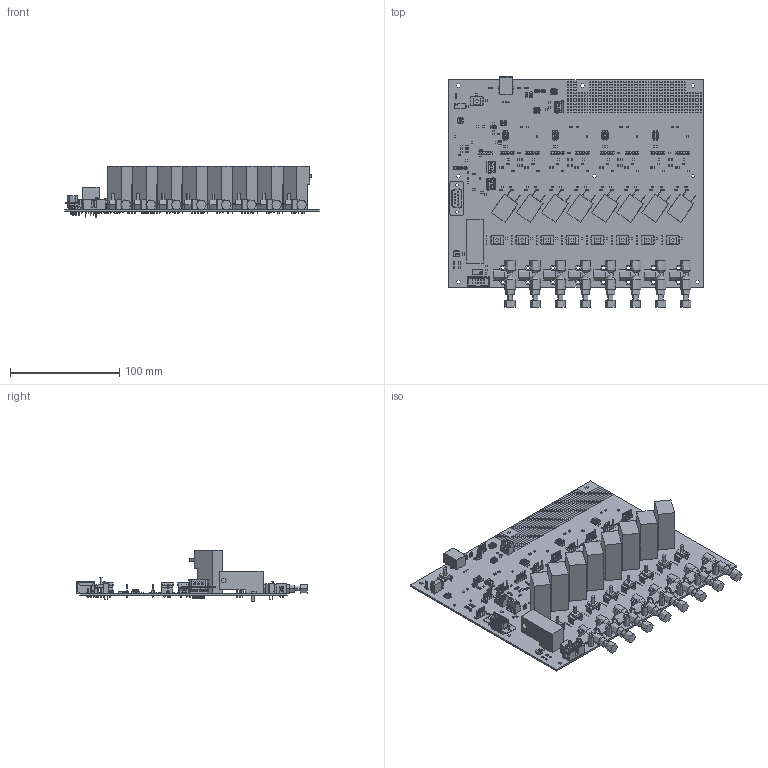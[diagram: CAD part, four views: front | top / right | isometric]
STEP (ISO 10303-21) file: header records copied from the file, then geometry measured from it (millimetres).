
FILE_DESCRIPTION (( 'STEP AP214' ), '1' );
FILE_NAME ('MFCS-PCB_8C.STEP', '2023-09-29T14:33:53', ( '' ), ( '' ), 'SwSTEP 2.0', 'SolidWorks 2023', '' );
FILE_SCHEMA (( 'AUTOMOTIVE_DESIGN' ));
Length unit declared in the file: millimetre
Products named in the file (1): MFCS-PCB_8C
Bounding box: 233.39 x 211.14 x 47.29 mm (x, y, z)
Topology: 0 solids, 299 shells, 12695 faces, 33568 edges, 21837 vertices
Faces by surface type: plane 7871, cylinder 4432, bspline 240, cone 152
Entity records: 554832 total; most frequent: CARTESIAN_POINT 90625, ORIENTED_EDGE 67026, DIRECTION 65815, EDGE_CURVE 33530, LINE 23547, VECTOR 23547, VERTEX_POINT 21839, AXIS2_PLACEMENT_3D 21134
